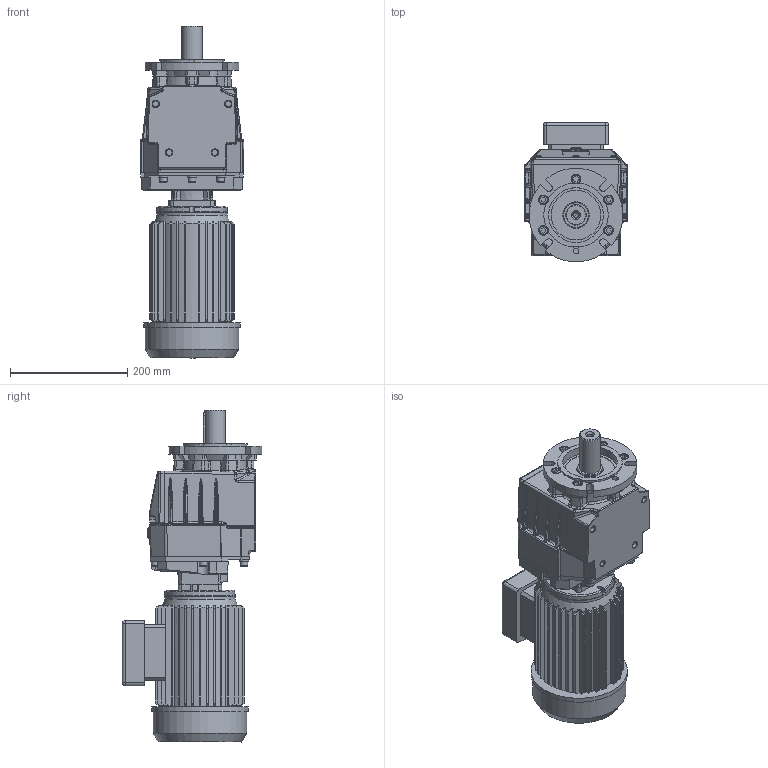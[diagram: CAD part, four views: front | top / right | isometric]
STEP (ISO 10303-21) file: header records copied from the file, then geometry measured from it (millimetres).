
FILE_DESCRIPTION( ( 'Unknown' ), '1' );
FILE_NAME( 'E:/services/configuratordownloads/customers/HYDROMEC/COASSIALI/download/E471359ADCEB5BECF18B6831185D5C48/STEP/E471359ADCEB5BECF18B6831185D5C48.3d.stp', 'Unknown', ( 'Unknown' ), ( 'Unknown' ), 'PSStep 10.1', 'Unknown', ' ' );
FILE_SCHEMA( ( 'AUTOMOTIVE_DESIGN { 1 0 10303 214 1 1 1 1 }' ) );
Length unit declared in the file: millimetre
Products named in the file (1): C618800
Bounding box: 176.85 x 238.8 x 567 mm (x, y, z)
Volume: 9932046.3 mm3; surface area: 581334.2 mm2
Topology: 1 solids, 32 shells, 1677 faces, 4194 edges, 2648 vertices
Faces by surface type: plane 900, cylinder 392, bspline 196, cone 122, torus 37, sphere 26, extrusion 4
Full cylindrical faces by diameter (mm): 6 x6, 6.5 x1, 6.647 x4, 6.8 x8, 7 x3, 7.175 x6, 8.376 x6, 8.5 x8, 10 x7, 10.106 x4, 10.5 x6, 11.3 x1, 11.445 x2, 12.75 x8, 13.5 x1, 15.8 x5, 16.5 x5, 18 x1, 19 x1, 22 x1, 35 x2, 45 x1, 47 x2, 80 x1, 85 x1, 93.5 x1, 106 x1, 120 x1, 130.261 x1, 160 x1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
Entity records: 73433 total; most frequent: CARTESIAN_POINT 22525, ORIENTED_EDGE 7840, DIRECTION 7225, EDGE_CURVE 3920, VERTEX_POINT 2565, AXIS2_PLACEMENT_3D 2505, VECTOR 2215, LINE 2211
